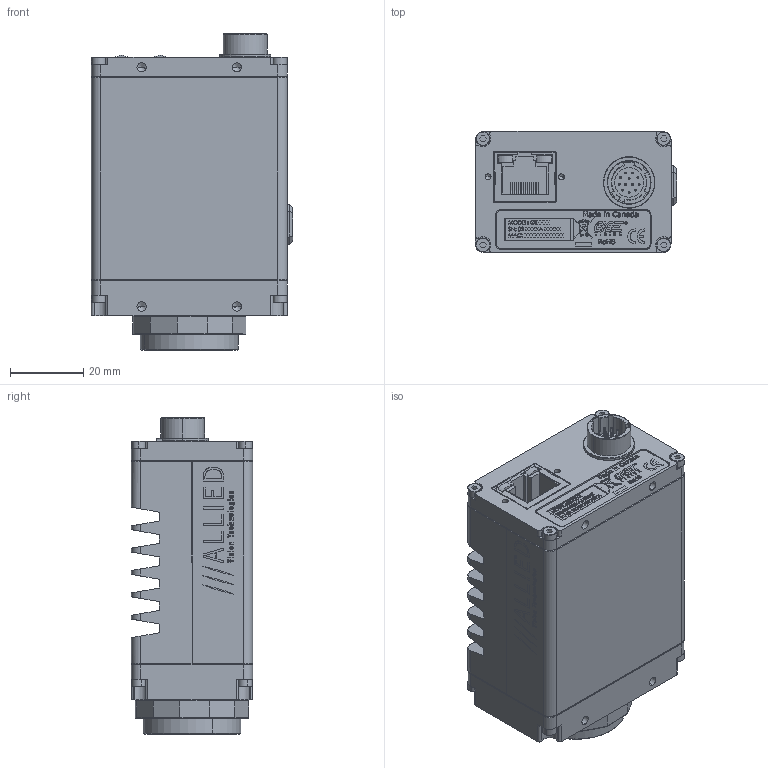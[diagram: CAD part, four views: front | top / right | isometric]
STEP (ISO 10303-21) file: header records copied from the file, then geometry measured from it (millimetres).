
FILE_DESCRIPTION (( 'STEP AP214' ), '1' );
FILE_NAME ('GT1600M CAMERAS ASSY.STEP', '2013-08-01T16:59:46', ( '' ), ( '' ), 'SwSTEP 2.0', 'SolidWorks 2013', '' );
FILE_SCHEMA (( 'AUTOMOTIVE_DESIGN' ));
Length unit declared in the file: millimetre
Products named in the file (23): 260034-HIROSE HR10A-10R-12PB WASHER; GT1600M CAMERAS ASSY; 110003AC-CV CMOUNT RING; GT BODY ASSY_100193A-GT BODY ASSY SLOW; GT TOP COVER_110159A-GT TOP COVER SHORT; 100191A-GT BACK ASSY; GT1600 FRONT ASSY_100214A-GT1600M FRONT ASSY; 110031A-B EC-CCD LOCKING RING; 200130B-GT CONTROL SLOW; 110154A-GT FRONT PLATE SF; 110153A-GT BACK PLATE; LABEL PRINTOUT; 740144A-GT SERIES LABEL; 260034-HIROSE HR10A-10R-12PB; 220075-SONY ICX274AL; CONN_KOBICONN_163-157J-E; CONN_AMPHENOL_RJHSE-5481; 140061-SCREW SKT CAP M2x8 SS; 110157A-GT CCD GASKET SF; SONY ICX274 BODY; 260034-HIROSE HR10A-10R-12PB NUT; SONY ICX274 WINDOW; GT BOT COVER_110158A-GT BOT COVER SHORT
Assembly tree (29 placements, depth 4):
  GT1600M CAMERAS ASSY
    740144A-GT SERIES LABEL
    GT BODY ASSY_100193A-GT BODY ASSY SLOW
      GT TOP COVER_110159A-GT TOP COVER SHORT
      GT BOT COVER_110158A-GT BOT COVER SHORT
      200130B-GT CONTROL SLOW
        CONN_AMPHENOL_RJHSE-5481
        CONN_KOBICONN_163-157J-E
      140061-SCREW SKT CAP M2x8 SS  x4
      100191A-GT BACK ASSY
        260034-HIROSE HR10A-10R-12PB WASHER
        260034-HIROSE HR10A-10R-12PB NUT
        260034-HIROSE HR10A-10R-12PB
        110153A-GT BACK PLATE
    140061-SCREW SKT CAP M2x8 SS  x4
    GT1600 FRONT ASSY_100214A-GT1600M FRONT ASSY
      110157A-GT CCD GASKET SF
      110003AC-CV CMOUNT RING
      110154A-GT FRONT PLATE SF
      110031A-B EC-CCD LOCKING RING
      220075-SONY ICX274AL
        SONY ICX274 WINDOW
        SONY ICX274 BODY
    LABEL PRINTOUT
Bounding box: 54.84 x 33.02 x 86.13 mm (x, y, z)
Volume: 62613.4 mm3; surface area: 51092.8 mm2
Topology: 40 solids, 40 shells, 3810 faces, 10048 edges, 6498 vertices
Faces by surface type: plane 2351, bspline 645, cylinder 566, cone 248
Entity records: 177576 total; most frequent: CARTESIAN_POINT 48520, ORIENTED_EDGE 19304, DIRECTION 15789, EDGE_CURVE 9652, VECTOR 7123, LINE 7123, VERTEX_POINT 6316, AXIS2_PLACEMENT_3D 4333
